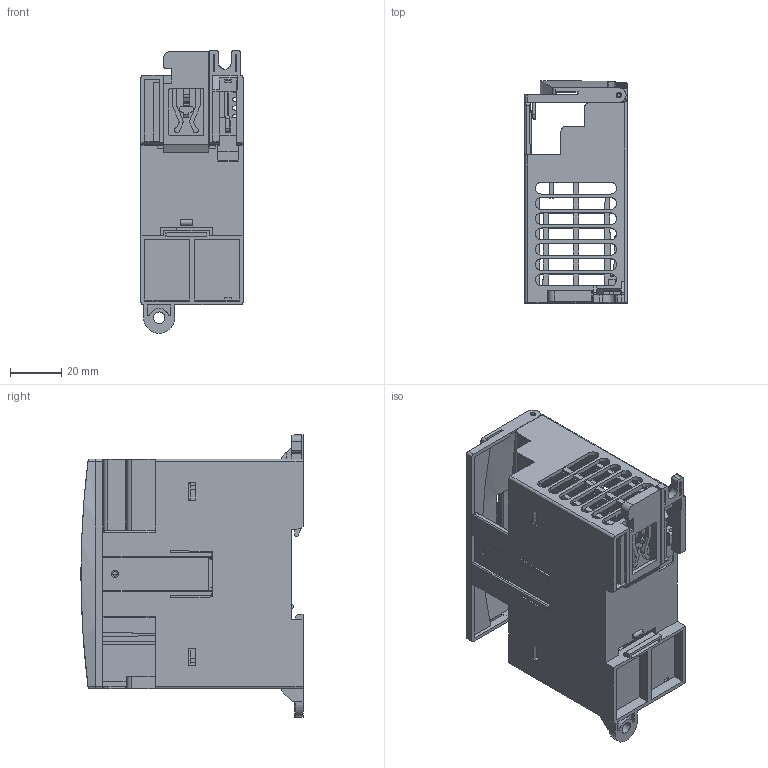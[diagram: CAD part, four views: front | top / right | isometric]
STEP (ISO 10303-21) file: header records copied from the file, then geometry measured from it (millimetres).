
FILE_DESCRIPTION((''),'2;1');
FILE_NAME('1762-IQ16','2009-10-29T',('ABSchul1'),('Rockwell Automation'),'PRO/ENGINEER BY PARAMETRIC TECHNOLOGY CORPORATION, 2007390','PRO/ENGINEER BY PARAMETRIC TECHNOLOGY CORPORATION, 2007390','');
FILE_SCHEMA(('CONFIG_CONTROL_DESIGN'));
Length unit declared in the file: millimetre
Products named in the file (1): 1762-IQ16
Bounding box: 40 x 87.08 x 110.9 mm (x, y, z)
Surface area: 65820.5 mm2 (no closed solid volume)
Topology: 0 solids, 2 shells, 1220 faces, 3826 edges, 2506 vertices
Faces by surface type: plane 892, cylinder 261, torus 35, bspline 17, cone 11, sphere 4
Entity records: 44172 total; most frequent: CARTESIAN_POINT 10479, ORIENTED_EDGE 7646, DIRECTION 6244, EDGE_CURVE 3823, VECTOR 2912, LINE 2912, VERTEX_POINT 2506, AXIS2_PLACEMENT_3D 1666
